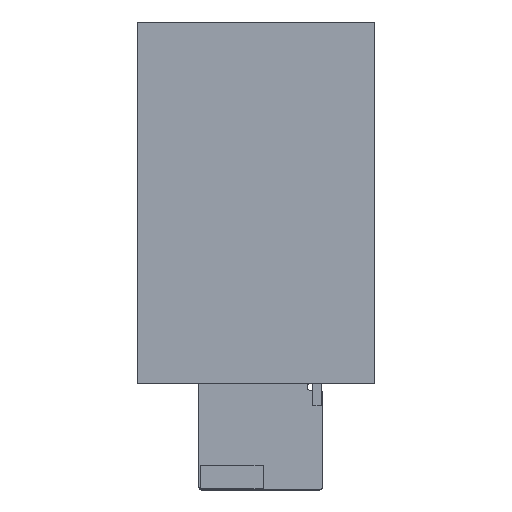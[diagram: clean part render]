
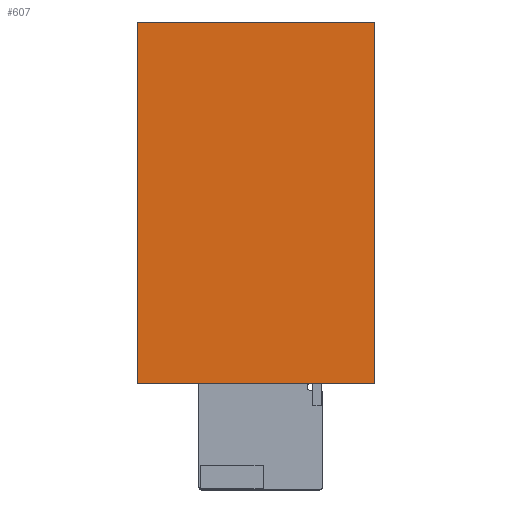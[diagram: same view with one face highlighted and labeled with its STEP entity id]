
A CAD part, top view. The second image highlights one B-rep face of the part: STEP entity #607.
In plain terms, the highlighted planar face has unit normal (0, 0, 1).
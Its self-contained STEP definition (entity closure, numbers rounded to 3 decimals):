
#85=DIRECTION('',(0.,1.,0.));
#86=VECTOR('',#85,83.);
#87=CARTESIAN_POINT('',(27.25,-44.18,1.17));
#88=LINE('',#87,#86);
#89=DIRECTION('',(1.,0.,0.));
#90=VECTOR('',#89,54.5);
#91=CARTESIAN_POINT('',(-27.25,-44.18,1.17));
#92=LINE('',#91,#90);
#93=DIRECTION('',(0.,-1.,0.));
#94=VECTOR('',#93,83.);
#95=CARTESIAN_POINT('',(-27.25,38.82,1.17));
#96=LINE('',#95,#94);
#97=DIRECTION('',(-1.,0.,0.));
#98=VECTOR('',#97,54.5);
#99=CARTESIAN_POINT('',(27.25,38.82,1.17));
#100=LINE('',#99,#98);
#396=CARTESIAN_POINT('',(27.25,-44.18,1.17));
#397=CARTESIAN_POINT('',(27.25,38.82,1.17));
#398=VERTEX_POINT('',#396);
#399=VERTEX_POINT('',#397);
#400=CARTESIAN_POINT('',(-27.25,38.82,1.17));
#401=VERTEX_POINT('',#400);
#402=CARTESIAN_POINT('',(-27.25,-44.18,1.17));
#403=VERTEX_POINT('',#402);
#596=CARTESIAN_POINT('',(0.,0.,1.17));
#597=DIRECTION('',(0.,0.,1.));
#598=DIRECTION('',(1.,0.,0.));
#599=AXIS2_PLACEMENT_3D('',#596,#597,#598);
#600=PLANE('',#599);
#601=ORIENTED_EDGE('',*,*,#528,.F.);
#602=ORIENTED_EDGE('',*,*,#543,.F.);
#603=ORIENTED_EDGE('',*,*,#577,.F.);
#604=ORIENTED_EDGE('',*,*,#590,.F.);
#605=EDGE_LOOP('',(#601,#602,#603,#604));
#606=FACE_OUTER_BOUND('',#605,.F.);
#528=EDGE_CURVE('',#398,#399,#88,.T.);
#543=EDGE_CURVE('',#403,#398,#92,.T.);
#577=EDGE_CURVE('',#401,#403,#96,.T.);
#590=EDGE_CURVE('',#399,#401,#100,.T.);
#607=ADVANCED_FACE('',(#606),#600,.T.);
